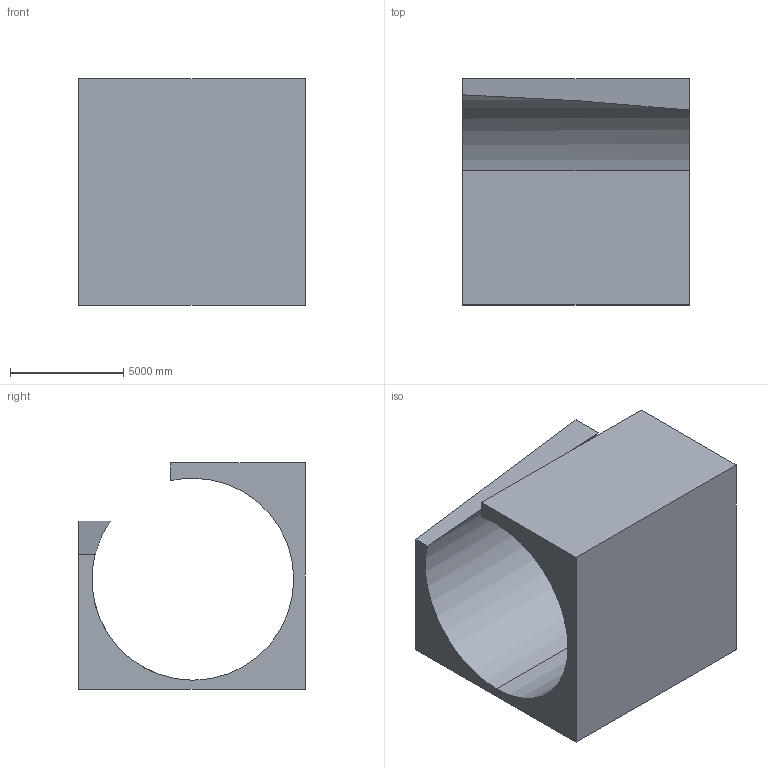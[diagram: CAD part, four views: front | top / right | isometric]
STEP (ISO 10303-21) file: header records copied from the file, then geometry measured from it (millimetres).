
FILE_DESCRIPTION (( 'STEP AP203' ), '1' );
FILE_NAME ('4.STEP', '2022-08-30T13:59:32', ( 'user' ), ( '' ), 'SwSTEP 2.0', 'SolidWorks 2021', '' );
FILE_SCHEMA (( 'CONFIG_CONTROL_DESIGN' ));
Length unit declared in the file: centimetre
Products named in the file (1): 4
Bounding box: 10000 x 10000 x 10000 mm (x, y, z)
Volume: 292151665667 mm3; surface area: 641810675.9 mm2
Topology: 1 solids, 1 shells, 11 faces, 27 edges, 18 vertices
Faces by surface type: plane 8, cylinder 3
Entity records: 404 total; most frequent: CARTESIAN_POINT 60, DIRECTION 56, ORIENTED_EDGE 54, EDGE_CURVE 27, LINE 20, VECTOR 20, AXIS2_PLACEMENT_3D 18, VERTEX_POINT 18
